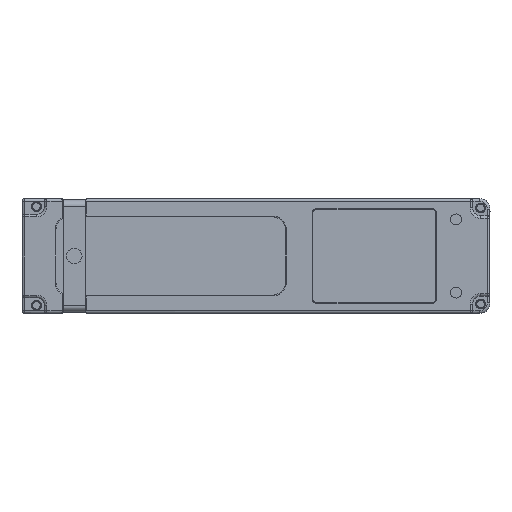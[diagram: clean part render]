
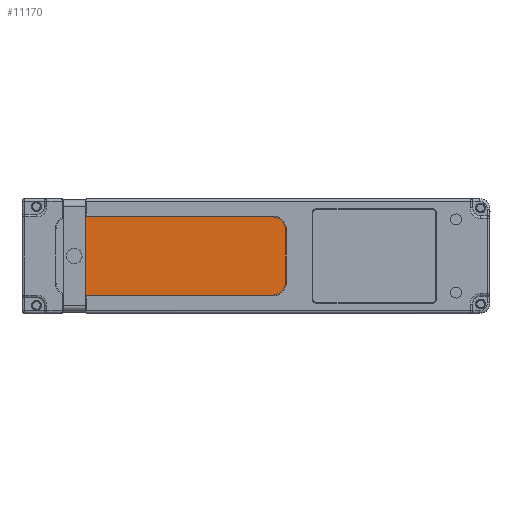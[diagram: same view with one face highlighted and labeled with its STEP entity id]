
A CAD part, left-side view. The second image highlights one B-rep face of the part: STEP entity #11170.
In plain terms, the highlighted planar face has unit normal (-1, 0, 0).
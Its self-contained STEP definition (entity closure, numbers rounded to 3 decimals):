
#576=PLANE('',#26596);
#1562=LINE('',#37534,#3416);
#1648=LINE('',#37969,#3502);
#1649=LINE('',#37971,#3503);
#1650=LINE('',#37975,#3504);
#3416=VECTOR('',#30652,1.);
#3502=VECTOR('',#31018,1.);
#3503=VECTOR('',#31021,1.);
#3504=VECTOR('',#31024,1.);
#5006=FACE_OUTER_BOUND('',#12146,.T.);
#11170=ADVANCED_FACE('',(#5006),#576,.F.);
#12146=EDGE_LOOP('',(#15182,#15183,#15184,#15185,#15186,#15187));
#15182=ORIENTED_EDGE('',*,*,#19085,.F.);
#15183=ORIENTED_EDGE('',*,*,#18921,.F.);
#15184=ORIENTED_EDGE('',*,*,#19086,.T.);
#15185=ORIENTED_EDGE('',*,*,#19087,.T.);
#15186=ORIENTED_EDGE('',*,*,#19088,.T.);
#15187=ORIENTED_EDGE('',*,*,#19089,.T.);
#18921=EDGE_CURVE('',#23628,#23629,#1562,.T.);
#19085=EDGE_CURVE('',#23629,#23721,#1648,.T.);
#19086=EDGE_CURVE('',#23628,#23723,#1649,.T.);
#19087=EDGE_CURVE('',#23723,#23724,#21521,.T.);
#19088=EDGE_CURVE('',#23724,#23725,#1650,.T.);
#19089=EDGE_CURVE('',#23725,#23721,#21522,.T.);
#21521=CIRCLE('',#26594,5.);
#21522=CIRCLE('',#26595,5.);
#23628=VERTEX_POINT('',#37533);
#23629=VERTEX_POINT('',#37535);
#23721=VERTEX_POINT('',#37966);
#23723=VERTEX_POINT('',#37972);
#23724=VERTEX_POINT('',#37974);
#23725=VERTEX_POINT('',#37976);
#26594=AXIS2_PLACEMENT_3D('',#37973,#31022,#31023);
#26595=AXIS2_PLACEMENT_3D('',#37977,#31025,#31026);
#26596=AXIS2_PLACEMENT_3D('',#37978,#31027,#31028);
#30652=DIRECTION('',(0.,0.,1.));
#31018=DIRECTION('',(0.,-1.,0.));
#31021=DIRECTION('',(0.,-1.,0.));
#31022=DIRECTION('',(-1.,0.,0.));
#31023=DIRECTION('',(0.,1.,0.));
#31024=DIRECTION('',(0.,0.,1.));
#31025=DIRECTION('',(-1.,0.,0.));
#31026=DIRECTION('',(0.,1.,0.));
#31027=DIRECTION('',(1.,0.,0.));
#31028=DIRECTION('',(0.,1.,0.));
#37533=CARTESIAN_POINT('',(-4.5,155.108,7.043));
#37534=CARTESIAN_POINT('',(-4.5,155.108,32.043));
#37535=CARTESIAN_POINT('',(-4.5,155.108,37.043));
#37966=CARTESIAN_POINT('',(-4.5,83.358,37.043));
#37969=CARTESIAN_POINT('',(-4.5,161.358,37.043));
#37971=CARTESIAN_POINT('',(-4.5,161.358,7.043));
#37972=CARTESIAN_POINT('',(-4.5,83.358,7.043));
#37973=CARTESIAN_POINT('',(-4.5,83.358,12.043));
#37974=CARTESIAN_POINT('',(-4.5,78.358,12.043));
#37975=CARTESIAN_POINT('',(-4.5,78.358,32.043));
#37976=CARTESIAN_POINT('',(-4.5,78.358,32.043));
#37977=CARTESIAN_POINT('',(-4.5,83.358,32.043));
#37978=CARTESIAN_POINT('',(-4.5,166.358,32.043));
